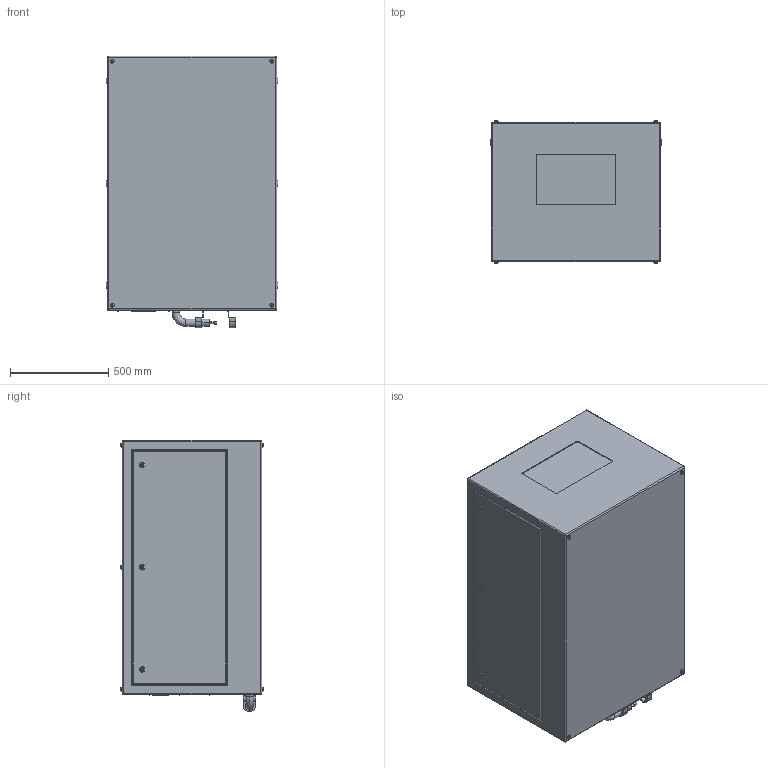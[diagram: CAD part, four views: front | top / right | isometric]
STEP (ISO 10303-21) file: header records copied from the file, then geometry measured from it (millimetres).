
FILE_DESCRIPTION (( 'STEP AP214' ), '1' );
FILE_NAME ('Oasis 59.210.L R02.STEP', '2022-08-27T16:05:03', ( '' ), ( '' ), 'SwSTEP 2.0', 'SolidWorks 2020', '' );
FILE_SCHEMA (( 'AUTOMOTIVE_DESIGN' ));
Length unit declared in the file: inch
Products named in the file (1): Oasis 59.210.L R02
Bounding box: 876.3 x 728.47 x 1384.3 mm (x, y, z)
Volume: 794838977.2 mm3; surface area: 5728629 mm2
Topology: 2 solids, 8 shells, 495 faces, 1129 edges, 714 vertices
Faces by surface type: plane 271, cylinder 170, torus 46, bspline 8
Entity records: 18928 total; most frequent: CARTESIAN_POINT 2851, DIRECTION 2459, ORIENTED_EDGE 2242, EDGE_CURVE 1121, AXIS2_PLACEMENT_3D 882, VERTEX_POINT 714, VECTOR 695, LINE 695
